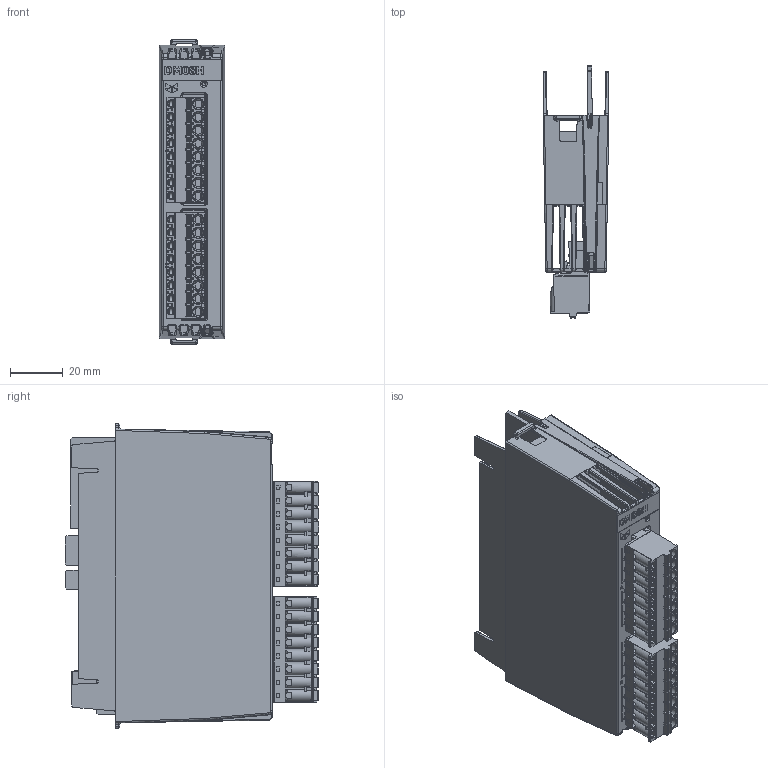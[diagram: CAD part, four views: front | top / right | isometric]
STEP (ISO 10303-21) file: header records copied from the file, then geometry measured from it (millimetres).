
FILE_DESCRIPTION(/* description */ (''),/* implementation_level */ '2;1');
FILE_NAME(/* name */ 'C:\Users\Public\Documents\Autodesk\Inventor 2023\DM08H_Simplified.stp',/* time_stamp */ '2024-10-24T15:10:46+02:00',/* author */ ('asho'),/* organization */ (''),/* preprocessor_version */ 'ST-DEVELOPER v19',/* originating_system */ 'Autodesk Inventor 2023',/* authorisation */ '');
FILE_SCHEMA (('AUTOMOTIVE_DESIGN { 1 0 10303 214 3 1 1 }'));
Products named in the file (1): DM08H_Simplified
Bounding box: 24.95 x 96.13 x 115.5 mm (x, y, z)
Volume: 121352.1 mm3; surface area: 63990.8 mm2
Topology: 1 solids, 1 shells, 5853 faces, 16673 edges, 10884 vertices
Faces by surface type: plane 3971, cylinder 1246, bspline 504, cone 85, sphere 26, torus 21
Full cylindrical faces by diameter (mm): 0.3 x112, 0.38 x2, 1.3 x24, 1.5 x16, 2.5 x1, 3 x16, 4 x16
Entity records: 251574 total; most frequent: CARTESIAN_POINT 92142, ORIENTED_EDGE 33276, DIRECTION 30282, EDGE_CURVE 16638, LINE 12284, VECTOR 12284, VERTEX_POINT 10884, AXIS2_PLACEMENT_3D 8999
